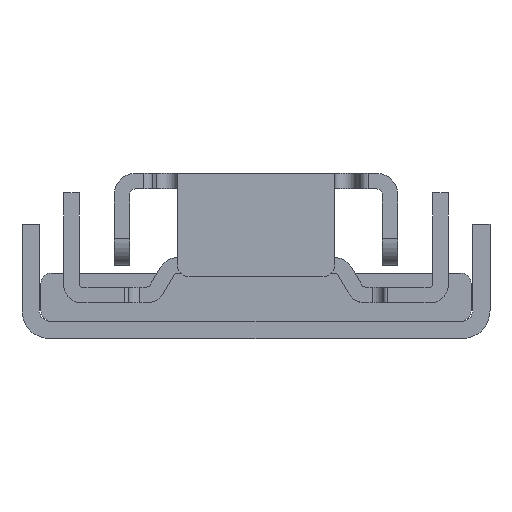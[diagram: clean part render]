
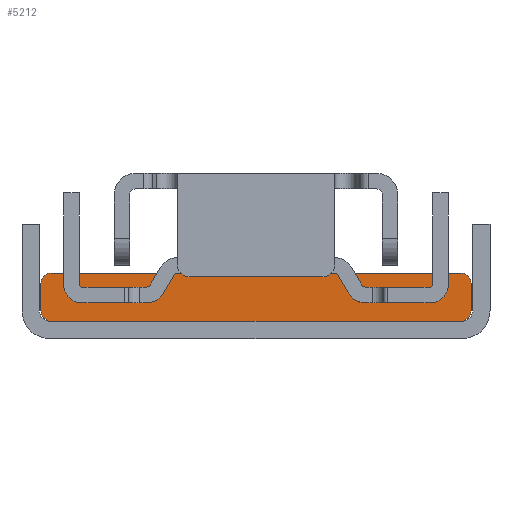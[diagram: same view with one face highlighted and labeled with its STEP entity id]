
A CAD part, front view. The second image highlights one B-rep face of the part: STEP entity #5212.
In plain terms, the highlighted planar face has unit normal (0, -1, 0) as drawn and (-1, 0, 0) by its records, which use the part's own axes.
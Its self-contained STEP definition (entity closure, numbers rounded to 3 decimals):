
#5036=DIRECTION('',(0.,0.,1.));
#5037=VECTOR('',#5036,46.6);
#5038=CARTESIAN_POINT('',(-48.7,0.,-23.3));
#5039=LINE('',#5038,#5037);
#5040=CARTESIAN_POINT('',(-48.7,4.3,23.3));
#5041=DIRECTION('',(-1.,0.,0.));
#5042=DIRECTION('',(0.,0.,1.));
#5043=AXIS2_PLACEMENT_3D('',#5040,#5041,#5042);
#5045=CARTESIAN_POINT('',(-48.7,1.2,23.3));
#5046=DIRECTION('',(-1.,0.,0.));
#5047=DIRECTION('',(0.,-1.,0.));
#5048=AXIS2_PLACEMENT_3D('',#5045,#5046,#5047);
#5050=CARTESIAN_POINT('',(-48.7,1.2,-23.3));
#5051=DIRECTION('',(-1.,0.,0.));
#5052=DIRECTION('',(0.,0.,-1.));
#5053=AXIS2_PLACEMENT_3D('',#5050,#5051,#5052);
#5055=DIRECTION('',(0.,1.,0.));
#5056=VECTOR('',#5055,3.1);
#5057=CARTESIAN_POINT('',(-48.7,1.2,-24.5));
#5058=LINE('',#5057,#5056);
#5059=CARTESIAN_POINT('',(-48.7,4.3,-23.3));
#5060=DIRECTION('',(-1.,0.,0.));
#5061=DIRECTION('',(0.,1.,0.));
#5062=AXIS2_PLACEMENT_3D('',#5059,#5060,#5061);
#5092=DIRECTION('',(0.,0.,1.));
#5093=VECTOR('',#5092,46.6);
#5094=CARTESIAN_POINT('',(-48.7,5.5,-23.3));
#5095=LINE('',#5094,#5093);
#5124=DIRECTION('',(0.,1.,0.));
#5125=VECTOR('',#5124,3.1);
#5126=CARTESIAN_POINT('',(-48.7,1.2,24.5));
#5127=LINE('',#5126,#5125);
#5132=CARTESIAN_POINT('',(-48.7,4.3,24.5));
#5133=VERTEX_POINT('',#5132);
#5134=CARTESIAN_POINT('',(-48.7,5.5,23.3));
#5135=VERTEX_POINT('',#5134);
#5136=CARTESIAN_POINT('',(-48.7,0.,23.3));
#5137=CARTESIAN_POINT('',(-48.7,1.2,24.5));
#5138=VERTEX_POINT('',#5136);
#5139=VERTEX_POINT('',#5137);
#5144=CARTESIAN_POINT('',(-48.7,5.5,-23.3));
#5145=CARTESIAN_POINT('',(-48.7,4.3,-24.5));
#5146=VERTEX_POINT('',#5144);
#5147=VERTEX_POINT('',#5145);
#5156=CARTESIAN_POINT('',(-48.7,1.2,-24.5));
#5157=VERTEX_POINT('',#5156);
#5158=CARTESIAN_POINT('',(-48.7,0.,-23.3));
#5159=VERTEX_POINT('',#5158);
#5191=CARTESIAN_POINT('',(-48.7,0.,-24.5));
#5192=DIRECTION('',(-1.,0.,0.));
#5193=DIRECTION('',(0.,0.,1.));
#5194=AXIS2_PLACEMENT_3D('',#5191,#5192,#5193);
#5195=PLANE('',#5194);
#5197=ORIENTED_EDGE('',*,*,#5196,.F.);
#5199=ORIENTED_EDGE('',*,*,#5198,.F.);
#5200=ORIENTED_EDGE('',*,*,#5181,.F.);
#5201=ORIENTED_EDGE('',*,*,#5171,.F.);
#5203=ORIENTED_EDGE('',*,*,#5202,.F.);
#5205=ORIENTED_EDGE('',*,*,#5204,.T.);
#5207=ORIENTED_EDGE('',*,*,#5206,.F.);
#5209=ORIENTED_EDGE('',*,*,#5208,.T.);
#5210=EDGE_LOOP('',(#5197,#5199,#5200,#5201,#5203,#5205,#5207,#5209));
#5211=FACE_OUTER_BOUND('',#5210,.F.);
#5212=ADVANCED_FACE('',(#5211),#5195,.T.);
#5044=CIRCLE('',#5043,1.2);
#5049=CIRCLE('',#5048,1.2);
#5054=CIRCLE('',#5053,1.2);
#5063=CIRCLE('',#5062,1.2);
#5171=EDGE_CURVE('',#5159,#5138,#5039,.T.);
#5181=EDGE_CURVE('',#5138,#5139,#5049,.T.);
#5196=EDGE_CURVE('',#5133,#5135,#5044,.T.);
#5198=EDGE_CURVE('',#5139,#5133,#5127,.T.);
#5202=EDGE_CURVE('',#5157,#5159,#5054,.T.);
#5204=EDGE_CURVE('',#5157,#5147,#5058,.T.);
#5206=EDGE_CURVE('',#5146,#5147,#5063,.T.);
#5208=EDGE_CURVE('',#5146,#5135,#5095,.T.);
